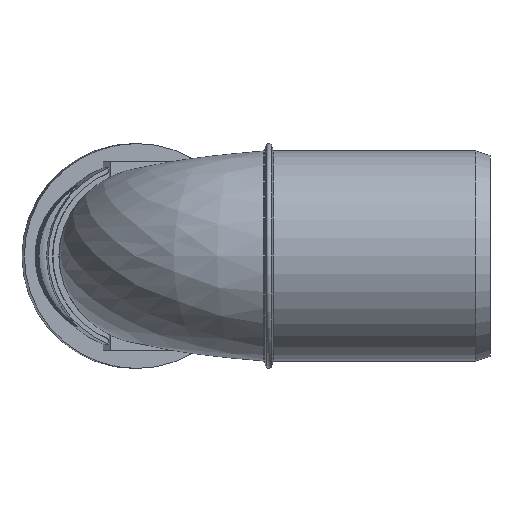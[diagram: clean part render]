
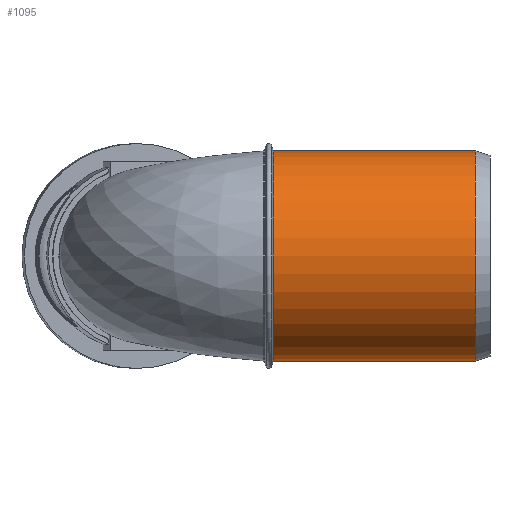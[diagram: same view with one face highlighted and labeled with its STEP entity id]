
A CAD part, left-side view. The second image highlights one B-rep face of the part: STEP entity #1095.
In plain terms, the highlighted cylindrical face has radius 25.075 mm (diameter 50.15 mm), a full revolution.
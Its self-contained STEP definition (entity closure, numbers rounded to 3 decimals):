
#121=CYLINDRICAL_SURFACE($,#1177,25.075);
#143=FACE_BOUND($,#269,.T.);
#205=FACE_OUTER_BOUND($,#268,.T.);
#268=EDGE_LOOP($,(#745));
#269=EDGE_LOOP($,(#746));
#424=CIRCLE($,#1176,25.075);
#425=CIRCLE($,#1178,25.075);
#483=VERTEX_POINT($,#2197);
#484=VERTEX_POINT($,#2200);
#596=EDGE_CURVE($,#483,#483,#424,.T.);
#597=EDGE_CURVE($,#484,#484,#425,.T.);
#745=ORIENTED_EDGE($,*,*,#597,.F.);
#746=ORIENTED_EDGE($,*,*,#596,.T.);
#1095=ADVANCED_FACE($,(#205,#143),#121,.T.);
#1176=AXIS2_PLACEMENT_3D($,#2198,#1319,#1320);
#1177=AXIS2_PLACEMENT_3D($,#2199,#1321,#1322);
#1178=AXIS2_PLACEMENT_3D($,#2201,#1323,#1324);
#1319=DIRECTION('center_axis',(0.,1.,0.));
#1320=DIRECTION('ref_axis',(-1.,0.,0.));
#1321=DIRECTION('center_axis',(0.,1.,0.));
#1322=DIRECTION('ref_axis',(-1.,0.,0.));
#1323=DIRECTION('center_axis',(0.,1.,0.));
#1324=DIRECTION('ref_axis',(-1.,0.,0.));
#2197=CARTESIAN_POINT('',(-25.075,3.5,0.));
#2198=CARTESIAN_POINT('Origin',(0.,3.5,0.));
#2199=CARTESIAN_POINT('Origin',(0.,27.65,0.));
#2200=CARTESIAN_POINT('',(-25.075,51.8,0.));
#2201=CARTESIAN_POINT('Origin',(0.,51.8,0.));
